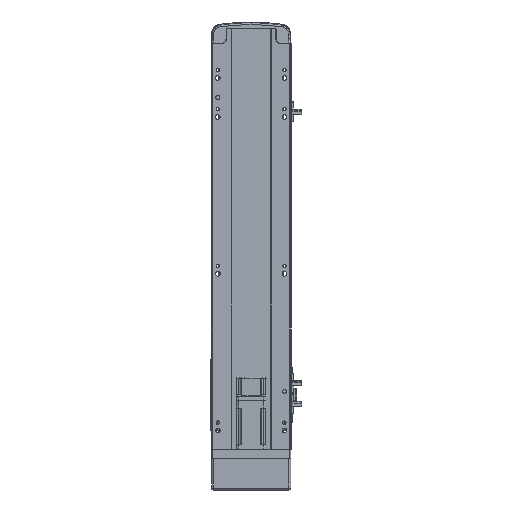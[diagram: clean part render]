
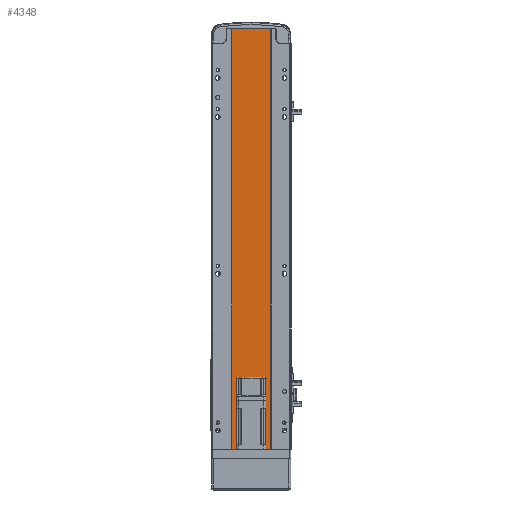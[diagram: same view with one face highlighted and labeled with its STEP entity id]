
A CAD part, front view. The second image highlights one B-rep face of the part: STEP entity #4348.
In plain terms, the highlighted planar face has unit normal (0, -1, 0).
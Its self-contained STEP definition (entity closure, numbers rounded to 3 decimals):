
#35 = VECTOR ( 'NONE', #12519, 1000. ) ;
#545 = CARTESIAN_POINT ( 'NONE',  ( 0., 2., 537. ) ) ;
#4195 = LINE ( 'NONE', #16993, #35 ) ;
#4218 = DIRECTION ( 'NONE',  ( 0., 0., 1. ) ) ;
#4348 = ADVANCED_FACE ( 'NONE', ( #26654 ), #31160, .F. ) ;
#5105 = LINE ( 'NONE', #33553, #51953 ) ;
#6712 = EDGE_CURVE ( 'NONE', #26588, #48912, #4195, .T. ) ;
#6933 = DIRECTION ( 'NONE',  ( 1., 0., 0. ) ) ;
#8092 = VECTOR ( 'NONE', #6933, 1000. ) ;
#8232 = EDGE_LOOP ( 'NONE', ( #35537, #38497, #49451, #53047 ) ) ;
#12519 = DIRECTION ( 'NONE',  ( 1., 0., 0. ) ) ;
#13689 = DIRECTION ( 'NONE',  ( 0., 0., -1. ) ) ;
#16993 = CARTESIAN_POINT ( 'NONE',  ( -24.5, 2., 537. ) ) ;
#17496 = CARTESIAN_POINT ( 'NONE',  ( -24.5, 2., 0. ) ) ;
#18342 = LINE ( 'NONE', #40358, #44093 ) ;
#21668 = EDGE_CURVE ( 'NONE', #48912, #35281, #5105, .T. ) ;
#26588 = VERTEX_POINT ( 'NONE', #47517 ) ;
#26654 = FACE_OUTER_BOUND ( 'NONE', #8232, .T. ) ;
#29012 = CARTESIAN_POINT ( 'NONE',  ( 0., 2., 0. ) ) ;
#31160 = PLANE ( 'NONE',  #52880 ) ;
#33553 = CARTESIAN_POINT ( 'NONE',  ( 24.5, 2., 537. ) ) ;
#34148 = DIRECTION ( 'NONE',  ( 0., 0., -1. ) ) ;
#35281 = VERTEX_POINT ( 'NONE', #38128 ) ;
#35537 = ORIENTED_EDGE ( 'NONE', *, *, #47783, .T. ) ;
#38128 = CARTESIAN_POINT ( 'NONE',  ( 24.5, 2., 0. ) ) ;
#38497 = ORIENTED_EDGE ( 'NONE', *, *, #21668, .F. ) ;
#38999 = CARTESIAN_POINT ( 'NONE',  ( 24.5, 2., 537. ) ) ;
#40358 = CARTESIAN_POINT ( 'NONE',  ( -24.5, 2., 537. ) ) ;
#42601 = EDGE_CURVE ( 'NONE', #26588, #44889, #18342, .T. ) ;
#44093 = VECTOR ( 'NONE', #13689, 1000. ) ;
#44889 = VERTEX_POINT ( 'NONE', #17496 ) ;
#47517 = CARTESIAN_POINT ( 'NONE',  ( -24.5, 2., 537. ) ) ;
#47783 = EDGE_CURVE ( 'NONE', #44889, #35281, #49986, .T. ) ;
#48912 = VERTEX_POINT ( 'NONE', #38999 ) ;
#49451 = ORIENTED_EDGE ( 'NONE', *, *, #6712, .F. ) ;
#49678 = DIRECTION ( 'NONE',  ( 0., 1., 0. ) ) ;
#49986 = LINE ( 'NONE', #29012, #8092 ) ;
#51953 = VECTOR ( 'NONE', #34148, 1000. ) ;
#52880 = AXIS2_PLACEMENT_3D ( 'NONE', #545, #49678, #4218 ) ;
#53047 = ORIENTED_EDGE ( 'NONE', *, *, #42601, .T. ) ;
